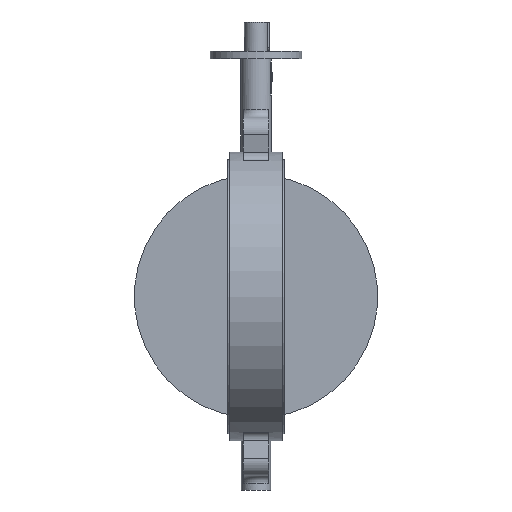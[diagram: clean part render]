
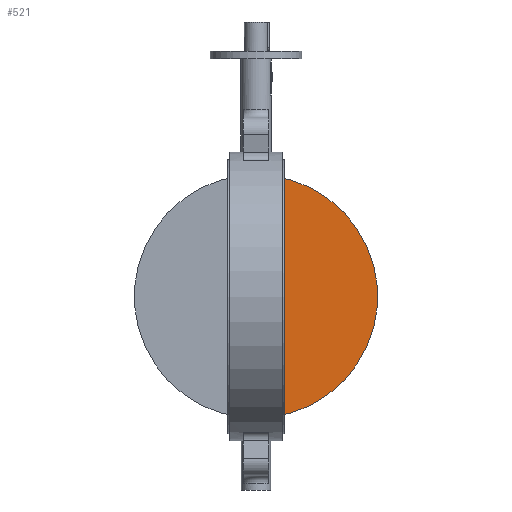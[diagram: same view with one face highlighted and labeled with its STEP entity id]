
A CAD part, front view. The second image highlights one B-rep face of the part: STEP entity #521.
In plain terms, the highlighted planar face has unit normal (0, -1, 0).
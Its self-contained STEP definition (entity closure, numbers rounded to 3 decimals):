
#521=ADVANCED_FACE('',(#1288),#1290,.T.);
#1288=FACE_BOUND('',#1289,.T.);
#1289=EDGE_LOOP('',(#1834,#1835));
#1290=PLANE('',#1291);
#1291=AXIS2_PLACEMENT_3D('',#1292,#1293,#1294);
#1292=CARTESIAN_POINT('',(0.,-2.5,0.));
#1293=DIRECTION('',(0.,-1.,0.));
#1294=DIRECTION('',(0.,0.,1.));
#1834=ORIENTED_EDGE('',*,*,#2084,.T.);
#1835=ORIENTED_EDGE('',*,*,#2119,.T.);
#2084=EDGE_CURVE('',#2372,#2369,#2373,.T.);
#2119=EDGE_CURVE('',#2369,#2372,#2422,.T.);
#2369=VERTEX_POINT('',#3860);
#2372=VERTEX_POINT('',#3890);
#2373=LINE('',#3891,#3892);
#2422=CIRCLE('',#4095,166.66);
#3860=CARTESIAN_POINT('',(19.843,-2.5,-165.474));
#3890=CARTESIAN_POINT('',(19.843,-2.5,165.474));
#3891=CARTESIAN_POINT('',(19.843,-2.5,165.474));
#3892=VECTOR('',#3893,1.);
#3893=DIRECTION('',(0.,0.,-1.));
#4095=AXIS2_PLACEMENT_3D('',#4096,#4097,#4098);
#4096=CARTESIAN_POINT('',(0.,-2.5,0.));
#4097=DIRECTION('',(0.,-1.,0.));
#4098=DIRECTION('',(0.119,0.,-0.993));
